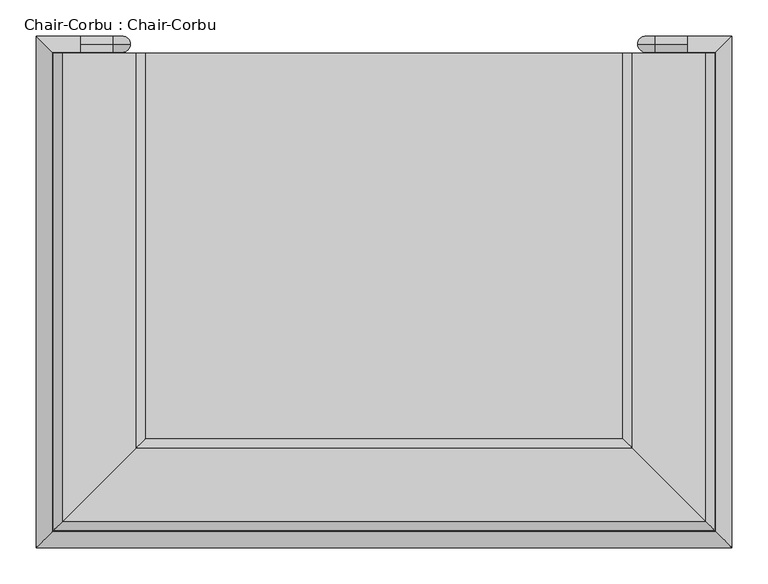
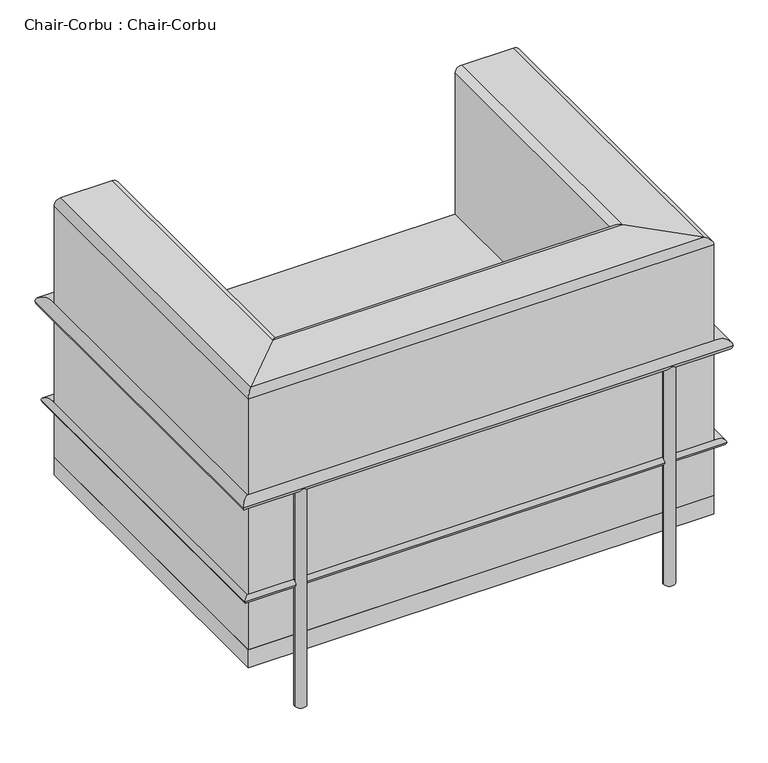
"""IFC4 building model written with IfcOpenShell, lengths in millimetres: furniture geometry, Chair-Corbu : Chair-Corbu."""

from ifc_helpers import new_model, si_unit, point, frame, frame_2d, origin, origin_with_axes, place, context, project, spatial, polyline, circle_curve, ellipse_curve, trimmed, segment, composite_curve, outline, extrude, source, transform, mapped, element, save
from ifc_brep_helpers import plane_surface, cylinder_surface, revolved_surface, advanced_brep


def chair_corbu_chair_corbu_95fad79a(model_context):
    return source(origin(), model_context, "Body", "SolidModel", [
        advanced_brep(
        [(116.1737705, -136.5770492, 139.7), (116.1737705, -136.5770492, 660.4), (128.8737705, -136.5770492, 673.1), (230.4737705, -136.5770492, 673.1), (243.1737705, -136.5770492, 660.4), (243.1737705, -136.5770492, 139.7), (243.1737705, -669.9770492, 139.7), (116.1737705, -796.9770492, 139.7), (243.1737705, -669.9770492, 660.4), (230.4737705, -682.6770492, 673.1), (128.8737705, -784.2770492, 673.1), (116.1737705, -796.9770492, 660.4), (903.5737705, -669.9770492, 139.7), (1030.5737705, -796.9770492, 139.7), (903.5737705, -669.9770492, 660.4), (916.2737705, -682.6770492, 673.1), (1017.8737705, -784.2770492, 673.1), (1030.5737705, -796.9770492, 660.4), (1030.5737705, -136.5770492, 139.7), (903.5737705, -136.5770492, 139.7), (903.5737705, -136.5770492, 660.4), (916.2737705, -136.5770492, 673.1), (1017.8737705, -136.5770492, 673.1), (1030.5737705, -136.5770492, 660.4)],
        [
            (0, 1),
            (1, 2, circle_curve(frame((128.8737705, -136.5770492, 660.4), z_axis=(0.0, 1.0, 0.0), x_axis=(-1.0, 0.0, 0.0)), 12.7)),
            (2, 3),
            (3, 4, circle_curve(frame((230.4737705, -136.5770492, 660.4), z_axis=(0.0, 1.0, 0.0), x_axis=(-1.0, 0.0, 0.0)), 12.7)),
            (4, 5),
            (5, 0),
            (5, 6),
            (6, 7),
            (7, 0),
            (4, 8),
            (8, 6),
            (3, 9),
            (9, 8, ellipse_curve(frame((230.4737705, -682.6770492, 660.4), z_axis=(-0.7071067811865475, 0.7071067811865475, 0.0), x_axis=(0.7071067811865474, 0.7071067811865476, 0.0)), 17.9605122, 12.7)),
            (2, 10),
            (10, 9),
            (1, 11),
            (11, 10, ellipse_curve(frame((128.8737705, -784.2770492, 660.4), z_axis=(-0.7071067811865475, 0.7071067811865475, 0.0), x_axis=(0.7071067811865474, 0.7071067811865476, 0.0)), 17.9605122, 12.7)),
            (7, 11),
            (6, 12),
            (12, 13),
            (13, 7),
            (8, 14),
            (14, 12),
            (9, 15),
            (15, 14, ellipse_curve(frame((916.2737705, -682.6770492, 660.4), z_axis=(-0.7071067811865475, -0.7071067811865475, 0.0), x_axis=(-0.7071067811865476, 0.7071067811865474, 0.0)), 17.9605122, 12.7)),
            (10, 16),
            (16, 15),
            (11, 17),
            (17, 16, ellipse_curve(frame((1017.8737705, -784.2770492, 660.4), z_axis=(-0.7071067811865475, -0.7071067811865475, 0.0), x_axis=(-0.7071067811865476, 0.7071067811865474, 0.0)), 17.9605122, 12.7)),
            (13, 17),
            (18, 19),
            (19, 20),
            (20, 21, circle_curve(frame((916.2737705, -136.5770492, 660.4), z_axis=(0.0, 1.0, 0.0), x_axis=(1.0, 0.0, 0.0)), 12.7)),
            (21, 22),
            (22, 23, circle_curve(frame((1017.8737705, -136.5770492, 660.4), z_axis=(0.0, 1.0, 0.0), x_axis=(1.0, 0.0, 0.0)), 12.7)),
            (23, 18),
            (12, 19),
            (18, 13),
            (14, 20),
            (15, 21),
            (16, 22),
            (17, 23),
        ],
        [
            plane_surface(frame((-566.5619763, -136.5770492, 0.0), z_axis=(0.0, 1.0, 0.0), x_axis=(0.0, 0.0, 1.0))),
            plane_surface(frame((116.1737705, -136.5770492, 139.7), z_axis=(0.0, 0.0, -1.0), x_axis=(0.0, -1.0, 0.0))),
            plane_surface(frame((243.1737705, -136.5770492, 139.7), z_axis=(1.0, 0.0, 0.0), x_axis=(0.0, -1.0, 0.0))),
            cylinder_surface(frame((230.4737705, -136.5770492, 660.4), z_axis=(0.0, 1.0, 0.0), x_axis=(-1.0, 0.0, 0.0)), 12.7),
            plane_surface(frame((230.4737705, -136.5770492, 673.1), z_axis=(0.0, 0.0, 1.0), x_axis=(0.0, -1.0, 0.0))),
            cylinder_surface(frame((128.8737705, -136.5770492, 660.4), z_axis=(0.0, 1.0, 0.0), x_axis=(-1.0, 0.0, 0.0)), 12.7),
            plane_surface(frame((116.1737705, -136.5770492, 660.4), z_axis=(-1.0, 0.0, 0.0), x_axis=(0.0, -1.0, 0.0))),
            plane_surface(frame((116.1737705, -796.9770492, 139.7), z_axis=(0.0, 0.0, -1.0), x_axis=(1.0, 0.0, 0.0))),
            plane_surface(frame((243.1737705, -669.9770492, 139.7), z_axis=(0.0, 1.0, 0.0), x_axis=(1.0, 0.0, 0.0))),
            cylinder_surface(frame((116.1737705, -682.6770492, 660.4), z_axis=(-1.0, 0.0, 0.0), x_axis=(0.0, -1.0, 0.0)), 12.7),
            plane_surface(frame((230.4737705, -682.6770492, 673.1), z_axis=(0.0, 0.0, 1.0), x_axis=(1.0, 0.0, 0.0))),
            cylinder_surface(frame((116.1737705, -784.2770492, 660.4), z_axis=(-1.0, 0.0, 0.0), x_axis=(0.0, -1.0, 0.0)), 12.7),
            plane_surface(frame((116.1737705, -796.9770492, 660.4), z_axis=(0.0, -1.0, 0.0), x_axis=(1.0, 0.0, 0.0))),
            plane_surface(frame((347.8380237, -136.5770492, 0.0), z_axis=(0.0, 1.0, 0.0), x_axis=(0.0, 0.0, -1.0))),
            plane_surface(frame((1030.5737705, -796.9770492, 139.7), z_axis=(0.0, 0.0, -1.0), x_axis=(0.0, 1.0, 0.0))),
            plane_surface(frame((903.5737705, -669.9770492, 139.7), z_axis=(-1.0, 0.0, 0.0), x_axis=(0.0, 1.0, 0.0))),
            cylinder_surface(frame((916.2737705, -796.9770492, 660.4), z_axis=(0.0, -1.0, 0.0), x_axis=(1.0, 0.0, 0.0)), 12.7),
            plane_surface(frame((916.2737705, -682.6770492, 673.1), z_axis=(0.0, 0.0, 1.0), x_axis=(0.0, 1.0, 0.0))),
            cylinder_surface(frame((1017.8737705, -796.9770492, 660.4), z_axis=(0.0, -1.0, 0.0), x_axis=(1.0, 0.0, 0.0)), 12.7),
            plane_surface(frame((1030.5737705, -796.9770492, 660.4), z_axis=(1.0, 0.0, 0.0), x_axis=(0.0, 1.0, 0.0))),
        ],
        [
            (0, [[1, 2, 3, 4, 5, 6]]),
            (1, [[7, 8, 9, -6]]),
            (2, [[10, 11, -7, -5]]),
            (3, [[12, 13, -10, -4]]),
            (4, [[14, 15, -12, -3]]),
            (5, [[16, 17, -14, -2]]),
            (6, [[-9, 18, -16, -1]]),
            (7, [[19, 20, 21, -8]]),
            (8, [[22, 23, -19, -11]]),
            (9, [[24, 25, -22, -13]]),
            (10, [[26, 27, -24, -15]]),
            (11, [[28, 29, -26, -17]]),
            (12, [[-21, 30, -28, -18]]),
            (13, [[31, 32, 33, 34, 35, 36]]),
            (14, [[37, -31, 38, -20]]),
            (15, [[39, -32, -37, -23]]),
            (16, [[40, -33, -39, -25]]),
            (17, [[41, -34, -40, -27]]),
            (18, [[42, -35, -41, -29]]),
            (19, [[-38, -36, -42, -30]]),
        ],
    ),
        advanced_brep(
        [(946.4362705, -123.8770492, 0.0), (924.2112705, -123.8770492, 0.0), (924.2112705, -123.8770492, 444.5), (946.4362705, -123.8770492, 444.5), (948.0237705, -123.8770492, 468.3125), (948.0237705, -123.8770492, 446.0875), (992.4737705, -123.8770492, 446.0875), (992.4737705, -123.8770492, 468.3125)],
        [
            (0, 1, circle_curve(frame((935.3237705, -123.8770492, 0.0), z_axis=(0.0, 0.0, -1.0), x_axis=(-1.0, 0.0, 0.0)), 11.1125)),
            (1, 0, circle_curve(frame((935.3237705, -123.8770492, 0.0), z_axis=(0.0, 0.0, -1.0), x_axis=(-1.0, 0.0, 0.0)), 11.1125)),
            (1, 2),
            (2, 3, circle_curve(frame((935.3237705, -123.8770492, 444.5), z_axis=(0.0, 0.0, -1.0), x_axis=(-1.0, 0.0, 0.0)), 11.1125)),
            (3, 0),
            (3, 2, circle_curve(frame((935.3237705, -123.8770492, 444.5), z_axis=(0.0, 0.0, -1.0), x_axis=(-1.0, 0.0, 0.0)), 11.1125)),
            (4, 5, circle_curve(frame((948.0237705, -123.8770492, 457.2), z_axis=(-1.0, 0.0, 0.0), x_axis=(0.0, 0.0, 1.0)), 11.1125)),
            (5, 3, circle_curve(frame((948.0237705, -123.8770492, 444.5), z_axis=(0.0, -1.0, 0.0), x_axis=(-1.0, 0.0, 0.0)), 1.5875)),
            (2, 4, circle_curve(frame((948.0237705, -123.8770492, 444.5), z_axis=(0.0, 1.0, 0.0), x_axis=(-1.0, 0.0, 0.0)), 23.8125)),
            (5, 4, circle_curve(frame((948.0237705, -123.8770492, 457.2), z_axis=(-1.0, 0.0, 0.0), x_axis=(0.0, 0.0, 1.0)), 11.1125)),
            (6, 7, circle_curve(frame((992.4737705, -123.8770492, 457.2), z_axis=(1.0, 0.0, 0.0), x_axis=(0.0, 0.0, 1.0)), 11.1125)),
            (7, 6, circle_curve(frame((992.4737705, -123.8770492, 457.2), z_axis=(1.0, 0.0, 0.0), x_axis=(0.0, 0.0, 1.0)), 11.1125)),
            (4, 7),
            (6, 5),
        ],
        [
            plane_surface(frame((935.3237705, -112.7645492, 0.0), z_axis=(0.0, 0.0, -1.0), x_axis=(1.0, 0.0, 0.0))),
            cylinder_surface(frame((935.3237705, -123.8770492, 0.0), z_axis=(0.0, 0.0, -1.0), x_axis=(-1.0, 0.0, 0.0)), 11.1125),
            revolved_surface(trimmed(ellipse_curve(frame((935.3237705, -123.8770492, 444.5), z_axis=(0.0, 0.0, 1.0), x_axis=(-1.0, 0.0, 0.0)), 11.1125, 11.1125), [point((946.4362705, -123.8770492, 444.5))], [point((924.2112705, -123.8770492, 444.5))], True, "CARTESIAN"), (948.0237705, -123.8770492, 444.5), (0.0, -1.0, 0.0)),
            revolved_surface(trimmed(ellipse_curve(frame((935.3237705, -123.8770492, 444.5), z_axis=(0.0, 0.0, 1.0), x_axis=(-1.0, 0.0, 0.0)), 11.1125, 11.1125), [point((924.2112705, -123.8770492, 444.5))], [point((946.4362705, -123.8770492, 444.5))], True, "CARTESIAN"), (948.0237705, -123.8770492, 444.5), (0.0, -1.0, 0.0)),
            plane_surface(frame((992.4737705, -123.8770492, 446.0875), z_axis=(1.0, 0.0, 0.0), x_axis=(0.0, -1.0, 0.0))),
            cylinder_surface(frame((948.0237705, -123.8770492, 457.2), z_axis=(-1.0, 0.0, 0.0), x_axis=(0.0, 0.0, 1.0)), 11.1125),
        ],
        [
            (0, [[1, 2]]),
            (1, [[3, 4, 5, -2]]),
            (1, [[-5, 6, -3, -1]]),
            (2, [[7, 8, -4, 9]]),
            (3, [[10, -9, -6, -8]]),
            (4, [[11, 12]]),
            (5, [[13, -11, 14, -7]]),
            (5, [[-14, -12, -13, -10]]),
        ],
    ),
        advanced_brep(
        [(222.5362705, -123.8770492, 0.0), (200.3112705, -123.8770492, 0.0), (200.3112705, -123.8770492, 444.5), (222.5362705, -123.8770492, 444.5), (198.7237705, -123.8770492, 446.0875), (198.7237705, -123.8770492, 468.3125), (154.2737705, -123.8770492, 468.3125), (154.2737705, -123.8770492, 446.0875)],
        [
            (0, 1, circle_curve(frame((211.4237705, -123.8770492, 0.0), z_axis=(0.0, 0.0, -1.0), x_axis=(-1.0, 0.0, 0.0)), 11.1125)),
            (1, 0, circle_curve(frame((211.4237705, -123.8770492, 0.0), z_axis=(0.0, 0.0, -1.0), x_axis=(-1.0, 0.0, 0.0)), 11.1125)),
            (1, 2),
            (2, 3, circle_curve(frame((211.4237705, -123.8770492, 444.5), z_axis=(0.0, 0.0, -1.0), x_axis=(-1.0, 0.0, 0.0)), 11.1125)),
            (3, 0),
            (3, 2, circle_curve(frame((211.4237705, -123.8770492, 444.5), z_axis=(0.0, 0.0, -1.0), x_axis=(-1.0, 0.0, 0.0)), 11.1125)),
            (4, 5, circle_curve(frame((198.7237705, -123.8770492, 457.2), z_axis=(1.0, 0.0, 0.0), x_axis=(0.0, 0.0, -1.0)), 11.1125)),
            (5, 3, circle_curve(frame((198.7237705, -123.8770492, 444.5), z_axis=(0.0, 1.0, 0.0), x_axis=(1.0, 0.0, 0.0)), 23.8125)),
            (2, 4, circle_curve(frame((198.7237705, -123.8770492, 444.5), z_axis=(0.0, -1.0, 0.0), x_axis=(1.0, 0.0, 0.0)), 1.5875)),
            (5, 4, circle_curve(frame((198.7237705, -123.8770492, 457.2), z_axis=(1.0, 0.0, 0.0), x_axis=(0.0, 0.0, -1.0)), 11.1125)),
            (6, 7, circle_curve(frame((154.2737705, -123.8770492, 457.2), z_axis=(-1.0, 0.0, 0.0), x_axis=(0.0, 0.0, -1.0)), 11.1125)),
            (7, 6, circle_curve(frame((154.2737705, -123.8770492, 457.2), z_axis=(-1.0, 0.0, 0.0), x_axis=(0.0, 0.0, -1.0)), 11.1125)),
            (4, 7),
            (6, 5),
        ],
        [
            plane_surface(frame((211.4237705, -112.7645492, 0.0), z_axis=(0.0, 0.0, -1.0), x_axis=(1.0, 0.0, 0.0))),
            cylinder_surface(frame((211.4237705, -123.8770492, 0.0), z_axis=(0.0, 0.0, -1.0), x_axis=(-1.0, 0.0, 0.0)), 11.1125),
            revolved_surface(trimmed(ellipse_curve(frame((211.4237705, -123.8770492, 444.5), z_axis=(0.0, 0.0, 1.0), x_axis=(-1.0, 0.0, 0.0)), 11.1125, 11.1125), [point((222.5362705, -123.8770492, 444.5))], [point((200.3112705, -123.8770492, 444.5))], True, "CARTESIAN"), (198.7237705, -123.8770492, 444.5), (0.0, 1.0, 0.0)),
            revolved_surface(trimmed(ellipse_curve(frame((211.4237705, -123.8770492, 444.5), z_axis=(0.0, 0.0, 1.0), x_axis=(-1.0, 0.0, 0.0)), 11.1125, 11.1125), [point((200.3112705, -123.8770492, 444.5))], [point((222.5362705, -123.8770492, 444.5))], True, "CARTESIAN"), (198.7237705, -123.8770492, 444.5), (0.0, 1.0, 0.0)),
            plane_surface(frame((154.2737705, -123.8770492, 446.0875), z_axis=(-1.0, 0.0, 0.0), x_axis=(0.0, 1.0, 0.0))),
            cylinder_surface(frame((198.7237705, -123.8770492, 457.2), z_axis=(1.0, 0.0, 0.0), x_axis=(0.0, 0.0, -1.0)), 11.1125),
        ],
        [
            (0, [[1, 2]]),
            (1, [[3, 4, 5, -2]]),
            (1, [[-5, 6, -3, -1]]),
            (2, [[7, 8, -4, 9]]),
            (3, [[10, -9, -6, -8]]),
            (4, [[11, 12]]),
            (5, [[13, -11, 14, -7]]),
            (5, [[-14, -12, -13, -10]]),
        ],
    ),
        advanced_brep(
        [(201.8987705, -133.4020492, 254.0), (201.8987705, -120.7020492, 254.0), (100.2987705, -120.7020492, 254.0), (112.9987705, -133.4020492, 254.0), (100.2987705, -812.8520492, 254.0), (112.9987705, -800.1520492, 254.0), (1046.4487705, -812.8520492, 254.0), (1033.7487705, -800.1520492, 254.0), (1046.4487705, -120.7020492, 254.0), (1033.7487705, -133.4020492, 254.0), (944.8487705, -133.4020492, 254.0), (944.8487705, -120.7020492, 254.0)],
        [
            (0, 1, circle_curve(frame((201.8987705, -127.0520492, 254.0), z_axis=(1.0, 0.0, 0.0), x_axis=(0.0, 1.0, 0.0)), 6.35)),
            (1, 0, circle_curve(frame((201.8987705, -127.0520492, 254.0), z_axis=(1.0, 0.0, 0.0), x_axis=(0.0, 1.0, 0.0)), 6.35)),
            (1, 2),
            (2, 3, ellipse_curve(frame((106.6487705, -127.0520492, 254.0), z_axis=(0.7071067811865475, 0.7071067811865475, 0.0), x_axis=(0.7071067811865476, -0.7071067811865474, 0.0)), 8.9802561, 6.35)),
            (3, 0),
            (3, 2, ellipse_curve(frame((106.6487705, -127.0520492, 254.0), z_axis=(0.7071067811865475, 0.7071067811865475, 0.0), x_axis=(0.7071067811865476, -0.7071067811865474, 0.0)), 8.9802561, 6.35)),
            (2, 4),
            (4, 5, ellipse_curve(frame((106.6487705, -806.5020492, 254.0), z_axis=(-0.7071067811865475, 0.7071067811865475, 0.0), x_axis=(0.7071067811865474, 0.7071067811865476, 0.0)), 8.9802561, 6.35)),
            (5, 3),
            (5, 4, ellipse_curve(frame((106.6487705, -806.5020492, 254.0), z_axis=(-0.7071067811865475, 0.7071067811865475, 0.0), x_axis=(0.7071067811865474, 0.7071067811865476, 0.0)), 8.9802561, 6.35)),
            (4, 6),
            (6, 7, ellipse_curve(frame((1040.0987705, -806.5020492, 254.0), z_axis=(-0.7071067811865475, -0.7071067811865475, 0.0), x_axis=(-0.7071067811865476, 0.7071067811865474, 0.0)), 8.9802561, 6.35)),
            (7, 5),
            (7, 6, ellipse_curve(frame((1040.0987705, -806.5020492, 254.0), z_axis=(-0.7071067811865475, -0.7071067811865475, 0.0), x_axis=(-0.7071067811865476, 0.7071067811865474, 0.0)), 8.9802561, 6.35)),
            (6, 8),
            (8, 9, ellipse_curve(frame((1040.0987705, -127.0520492, 254.0), z_axis=(0.7071067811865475, -0.7071067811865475, 0.0), x_axis=(-0.7071067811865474, -0.7071067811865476, 0.0)), 8.9802561, 6.35)),
            (9, 7),
            (9, 8, ellipse_curve(frame((1040.0987705, -127.0520492, 254.0), z_axis=(0.7071067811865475, -0.7071067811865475, 0.0), x_axis=(-0.7071067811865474, -0.7071067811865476, 0.0)), 8.9802561, 6.35)),
            (10, 11, circle_curve(frame((944.8487705, -127.0520492, 254.0), z_axis=(-1.0, 0.0, 0.0), x_axis=(0.0, 1.0, 0.0)), 6.35)),
            (11, 10, circle_curve(frame((944.8487705, -127.0520492, 254.0), z_axis=(-1.0, 0.0, 0.0), x_axis=(0.0, 1.0, 0.0)), 6.35)),
            (8, 11),
            (10, 9),
        ],
        [
            plane_surface(frame((201.8987705, -127.0520492, -259.5186838), z_axis=(1.0, 0.0, 0.0), x_axis=(0.0, 1.0, 0.0))),
            cylinder_surface(frame((201.8987705, -127.0520492, 254.0), z_axis=(1.0, 0.0, 0.0), x_axis=(0.0, 1.0, 0.0)), 6.35),
            cylinder_surface(frame((106.6487705, -127.0520492, 254.0), z_axis=(0.0, 1.0, 0.0), x_axis=(-1.0, 0.0, 0.0)), 6.35),
            cylinder_surface(frame((106.6487705, -806.5020492, 254.0), z_axis=(-1.0, 0.0, 0.0), x_axis=(0.0, -1.0, 0.0)), 6.35),
            cylinder_surface(frame((1040.0987705, -806.5020492, 254.0), z_axis=(0.0, -1.0, 0.0), x_axis=(1.0, 0.0, 0.0)), 6.35),
            plane_surface(frame((944.8487705, -127.0520492, -259.5186838), z_axis=(-1.0, 0.0, 0.0), x_axis=(0.0, 1.0, 0.0))),
            cylinder_surface(frame((1040.0987705, -127.0520492, 254.0), z_axis=(1.0, 0.0, 0.0), x_axis=(0.0, 1.0, 0.0)), 6.35),
        ],
        [
            (0, [[1, 2]]),
            (1, [[3, 4, 5, -2]]),
            (1, [[-5, 6, -3, -1]]),
            (2, [[7, 8, 9, -4]]),
            (2, [[-9, 10, -7, -6]]),
            (3, [[11, 12, 13, -8]]),
            (3, [[-13, 14, -11, -10]]),
            (4, [[15, 16, 17, -12]]),
            (4, [[-17, 18, -15, -14]]),
            (5, [[19, 20]]),
            (6, [[21, -19, 22, -16]]),
            (6, [[-22, -20, -21, -18]]),
        ],
    ),
        advanced_brep(
        [(154.2737705, -134.9895492, 457.2), (154.2737705, -112.7645492, 457.2), (92.3612705, -112.7645492, 457.2), (114.5862705, -134.9895492, 457.2), (92.3612705, -820.7895492, 457.2), (114.5862705, -798.5645492, 457.2), (1054.3862705, -820.7895492, 457.2), (1032.1612705, -798.5645492, 457.2), (1054.3862705, -112.7645492, 457.2), (1032.1612705, -134.9895492, 457.2), (992.4737705, -134.9895492, 457.2), (992.4737705, -112.7645492, 457.2)],
        [
            (0, 1, circle_curve(frame((154.2737705, -123.8770492, 457.2), z_axis=(1.0, 0.0, 0.0), x_axis=(0.0, 1.0, 0.0)), 11.1125)),
            (1, 0, circle_curve(frame((154.2737705, -123.8770492, 457.2), z_axis=(1.0, 0.0, 0.0), x_axis=(0.0, 1.0, 0.0)), 11.1125)),
            (1, 2),
            (2, 3, ellipse_curve(frame((103.4737705, -123.8770492, 457.2), z_axis=(0.7071067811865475, 0.7071067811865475, 0.0), x_axis=(0.7071067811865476, -0.7071067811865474, 0.0)), 15.7154482, 11.1125)),
            (3, 0),
            (3, 2, ellipse_curve(frame((103.4737705, -123.8770492, 457.2), z_axis=(0.7071067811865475, 0.7071067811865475, 0.0), x_axis=(0.7071067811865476, -0.7071067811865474, 0.0)), 15.7154482, 11.1125)),
            (2, 4),
            (4, 5, ellipse_curve(frame((103.4737705, -809.6770492, 457.2), z_axis=(-0.7071067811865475, 0.7071067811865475, 0.0), x_axis=(0.7071067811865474, 0.7071067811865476, 0.0)), 15.7154482, 11.1125)),
            (5, 3),
            (5, 4, ellipse_curve(frame((103.4737705, -809.6770492, 457.2), z_axis=(-0.7071067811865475, 0.7071067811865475, 0.0), x_axis=(0.7071067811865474, 0.7071067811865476, 0.0)), 15.7154482, 11.1125)),
            (4, 6),
            (6, 7, ellipse_curve(frame((1043.2737705, -809.6770492, 457.2), z_axis=(-0.7071067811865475, -0.7071067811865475, 0.0), x_axis=(-0.7071067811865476, 0.7071067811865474, 0.0)), 15.7154482, 11.1125)),
            (7, 5),
            (7, 6, ellipse_curve(frame((1043.2737705, -809.6770492, 457.2), z_axis=(-0.7071067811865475, -0.7071067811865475, 0.0), x_axis=(-0.7071067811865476, 0.7071067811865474, 0.0)), 15.7154482, 11.1125)),
            (6, 8),
            (8, 9, ellipse_curve(frame((1043.2737705, -123.8770492, 457.2), z_axis=(0.7071067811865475, -0.7071067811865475, 0.0), x_axis=(-0.7071067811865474, -0.7071067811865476, 0.0)), 15.7154482, 11.1125)),
            (9, 7),
            (9, 8, ellipse_curve(frame((1043.2737705, -123.8770492, 457.2), z_axis=(0.7071067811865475, -0.7071067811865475, 0.0), x_axis=(-0.7071067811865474, -0.7071067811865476, 0.0)), 15.7154482, 11.1125)),
            (10, 11, circle_curve(frame((992.4737705, -123.8770492, 457.2), z_axis=(-1.0, 0.0, 0.0), x_axis=(0.0, 1.0, 0.0)), 11.1125)),
            (11, 10, circle_curve(frame((992.4737705, -123.8770492, 457.2), z_axis=(-1.0, 0.0, 0.0), x_axis=(0.0, 1.0, 0.0)), 11.1125)),
            (8, 11),
            (10, 9),
        ],
        [
            plane_surface(frame((154.2737705, -123.8770492, -466.8567721), z_axis=(1.0, 0.0, 0.0), x_axis=(0.0, 1.0, 0.0))),
            cylinder_surface(frame((154.2737705, -123.8770492, 457.2), z_axis=(1.0, 0.0, 0.0), x_axis=(0.0, 1.0, 0.0)), 11.1125),
            cylinder_surface(frame((103.4737705, -123.8770492, 457.2), z_axis=(0.0, 1.0, 0.0), x_axis=(-1.0, 0.0, 0.0)), 11.1125),
            cylinder_surface(frame((103.4737705, -809.6770492, 457.2), z_axis=(-1.0, 0.0, 0.0), x_axis=(0.0, -1.0, 0.0)), 11.1125),
            cylinder_surface(frame((1043.2737705, -809.6770492, 457.2), z_axis=(0.0, -1.0, 0.0), x_axis=(1.0, 0.0, 0.0)), 11.1125),
            plane_surface(frame((992.4737705, -123.8770492, -466.8567721), z_axis=(-1.0, 0.0, 0.0), x_axis=(0.0, 1.0, 0.0))),
            cylinder_surface(frame((1043.2737705, -123.8770492, 457.2), z_axis=(1.0, 0.0, 0.0), x_axis=(0.0, 1.0, 0.0)), 11.1125),
        ],
        [
            (0, [[1, 2]]),
            (1, [[3, 4, 5, -2]]),
            (1, [[-5, 6, -3, -1]]),
            (2, [[7, 8, 9, -4]]),
            (2, [[-9, 10, -7, -6]]),
            (3, [[11, 12, 13, -8]]),
            (3, [[-13, 14, -11, -10]]),
            (4, [[15, 16, 17, -12]]),
            (4, [[-17, 18, -15, -14]]),
            (5, [[19, 20]]),
            (6, [[21, -19, 22, -16]]),
            (6, [[-22, -20, -21, -18]]),
        ],
    ),
        extrude(outline(polyline([(903.5737705, -669.9770492), (243.1737705, -669.9770492), (243.1737705, -136.5770492), (903.5737705, -136.5770492), (903.5737705, -669.9770492)])), frame((0.0, 0.0, 139.7), z_axis=(0.0, 0.0, 1.0), x_axis=(1.0, 0.0, 0.0)), (0.0, 0.0, 1.0), 228.6),
        extrude(outline(polyline([(1030.5737705, -796.9770492), (116.1737705, -796.9770492), (116.1737705, -136.5770492), (1030.5737705, -136.5770492), (1030.5737705, -796.9770492)])), frame((0.0, 0.0, 101.6), z_axis=(0.0, 0.0, 1.0), x_axis=(1.0, 0.0, 0.0)), (0.0, 0.0, 1.0), 38.1),
        extrude(outline(composite_curve([segment(trimmed(circle_curve(frame_2d((211.4237705, -809.6770492)), 11.1125), [point((200.3112705, -809.6770492))], [point((222.5362705, -809.6770492))], False, "CARTESIAN"), True, "CONTINUOUS"), segment(trimmed(circle_curve(frame_2d((211.4237705, -809.6770492)), 11.1125), [point((222.5362705, -809.6770492))], [point((200.3112705, -809.6770492))], False, "CARTESIAN"), True, "CONTINUOUS")], self_intersect=False)), origin_with_axes(), (0.0, 0.0, 1.0), 457.2),
        extrude(outline(composite_curve([segment(trimmed(circle_curve(frame_2d((935.3237705, -809.6770492)), 11.1125), [point((946.4362705, -809.6770492))], [point((924.2112705, -809.6770492))], False, "CARTESIAN"), True, "CONTINUOUS"), segment(trimmed(circle_curve(frame_2d((935.3237705, -809.6770492)), 11.1125), [point((924.2112705, -809.6770492))], [point((946.4362705, -809.6770492))], False, "CARTESIAN"), True, "CONTINUOUS")], self_intersect=False)), origin_with_axes(), (0.0, 0.0, 1.0), 457.2),
    ])


if __name__ == "__main__":
    model = new_model("IFC4")
    model_context = context("Model", 3, world=origin())
    ifc_project = project(units=[si_unit("LENGTHUNIT", "METRE", prefix="MILLI")], contexts=[model_context])
    site = spatial("IfcSite", under=ifc_project)
    building = spatial("IfcBuilding", under=site)
    placement = place(None, origin())
    chair_corbu_chair_corbu_shape = chair_corbu_chair_corbu_95fad79a(model_context)
    element("IfcFurniture", 1, ObjectType="Chair-Corbu : Chair-Corbu", at=placement, inside=building, context=model_context, shape_type="MappedRepresentation", body=[
        mapped(chair_corbu_chair_corbu_shape, transform((0.0, 0.0, 0.0), x_axis=(1.0, 0.0, 0.0), y_axis=(0.0, 1.0, 0.0), z_axis=(0.0, 0.0, 1.0))),
    ])
    save(model, "model.ifc")
